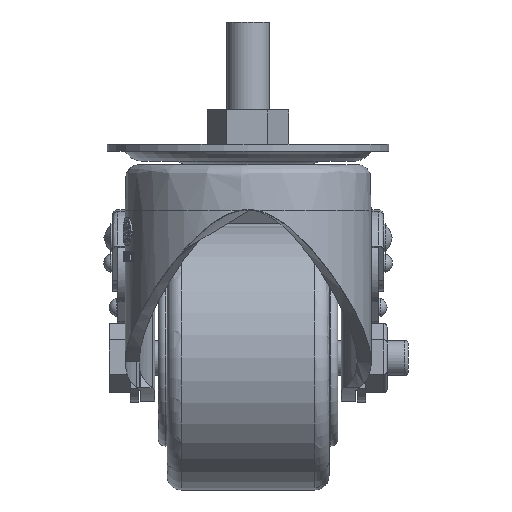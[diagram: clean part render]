
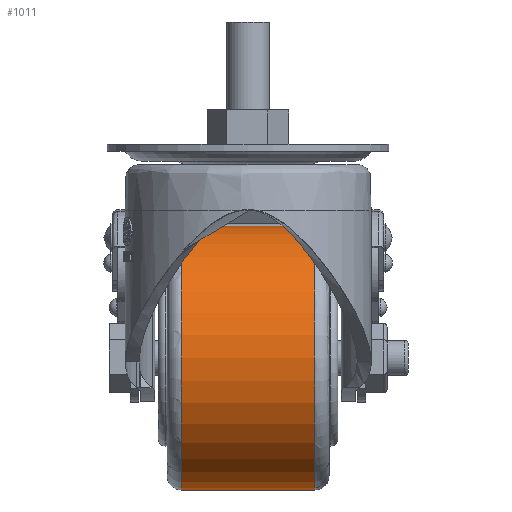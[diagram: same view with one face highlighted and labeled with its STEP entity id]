
A CAD part, left-side view. The second image highlights one B-rep face of the part: STEP entity #1011.
In plain terms, the highlighted cylindrical face has radius 37.5 mm (diameter 75 mm), a full revolution.
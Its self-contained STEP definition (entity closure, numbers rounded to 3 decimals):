
#1011=ADVANCED_FACE('',(#3683,#3684),#1633,.T.);
#1633=CYLINDRICAL_SURFACE('',#11066,37.5);
#3683=FACE_BOUND('',#3949,.T.);
#3684=FACE_BOUND('',#3950,.T.);
#3949=EDGE_LOOP('',(#4969));
#3950=EDGE_LOOP('',(#4970));
#4969=ORIENTED_EDGE('',*,*,#9173,.T.);
#4970=ORIENTED_EDGE('',*,*,#9174,.T.);
#8109=VERTEX_POINT('',#15645);
#8110=VERTEX_POINT('',#15647);
#9173=EDGE_CURVE('',#8109,#8109,#10603,.T.);
#9174=EDGE_CURVE('',#8110,#8110,#10604,.T.);
#10603=CIRCLE('',#11064,37.5);
#10604=CIRCLE('',#11065,37.5);
#11064=AXIS2_PLACEMENT_3D('',#15644,#12302,#12303);
#11065=AXIS2_PLACEMENT_3D('',#15646,#12304,#12305);
#11066=AXIS2_PLACEMENT_3D('',#15648,#12306,#12307);
#12302=DIRECTION('',(0.,-1.,0.));
#12303=DIRECTION('',(1.,0.,0.));
#12304=DIRECTION('',(0.,1.,0.));
#12305=DIRECTION('',(1.,0.,0.));
#12306=DIRECTION('',(0.,1.,0.));
#12307=DIRECTION('',(-1.,0.,0.));
#15644=CARTESIAN_POINT('',(30.,19.,-95.5));
#15645=CARTESIAN_POINT('',(67.5,19.,-95.5));
#15646=CARTESIAN_POINT('',(30.,-19.,-95.5));
#15647=CARTESIAN_POINT('',(67.5,-19.,-95.5));
#15648=CARTESIAN_POINT('',(30.,-23.,-95.5));
